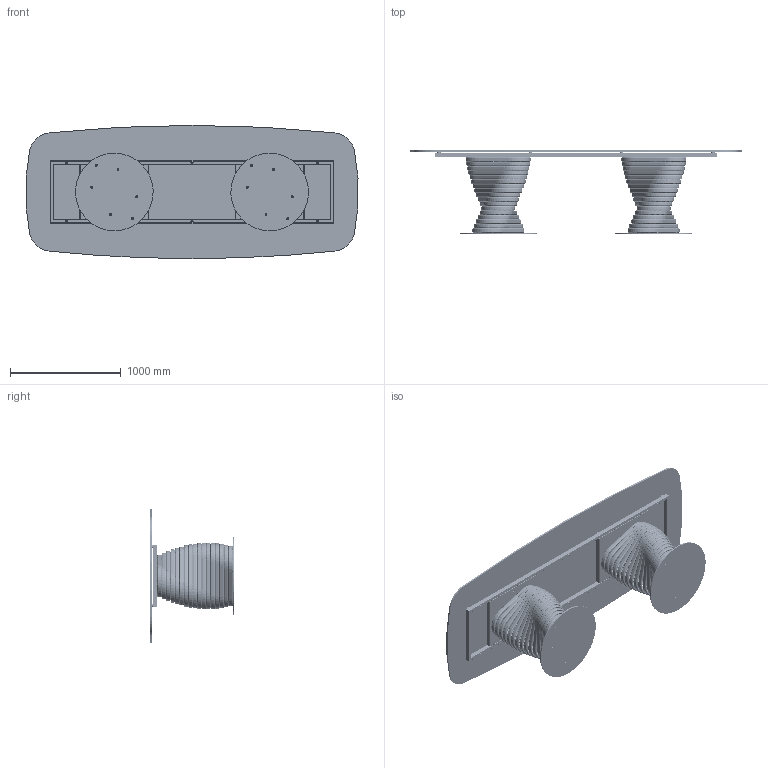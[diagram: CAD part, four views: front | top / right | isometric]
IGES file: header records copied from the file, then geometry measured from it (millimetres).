
Start section: SolidWorks IGES file using analytic representation for surfaces
Global section: file name: Y:\eforma\TECNICO\SOLIDWORKS\E-FORMA\1-TAVOLI\ROTOLO\02 parts\RO44G.IGS; native system: SolidWorks 2022; preprocessor: SolidWorks 2022; author: eforma.tech; date: 240807.152056; units: millimetre
Bounding box: 2991.72 x 757 x 1200 mm (x, y, z)
Volume: 74033219.4 mm3; surface area: 21385108.6 mm2
Topology: 186 solids, 186 shells, 2831 faces, 6655 edges, 4150 vertices
Faces by surface type: revolution 1665, plane 1166
